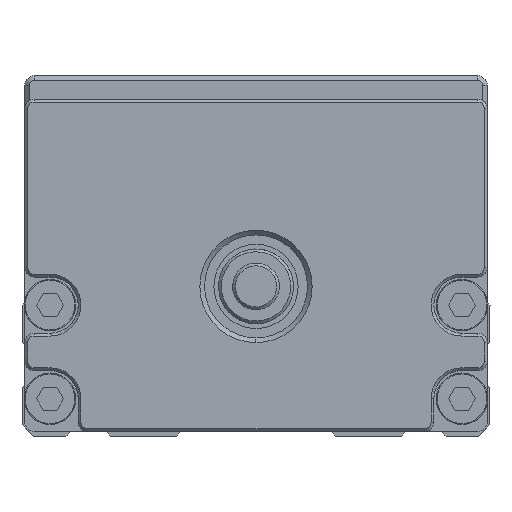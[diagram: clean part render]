
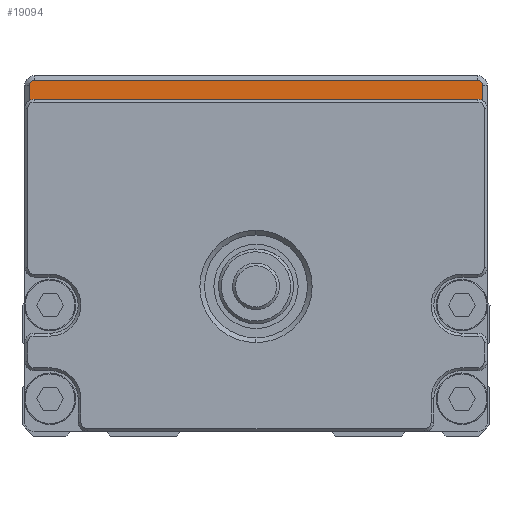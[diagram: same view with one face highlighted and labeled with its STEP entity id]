
A CAD part, front view. The second image highlights one B-rep face of the part: STEP entity #19094.
In plain terms, the highlighted planar face has unit normal (0, -1, 0) as drawn and (0, 1, 0) by its records, which use the part's own axes.
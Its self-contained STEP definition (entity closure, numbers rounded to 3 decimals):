
#594 = VERTEX_POINT ( 'NONE', #17052 ) ;
#1005 = LINE ( 'NONE', #26639, #14748 ) ;
#1908 = CARTESIAN_POINT ( 'NONE',  ( -23.7, -10., 35. ) ) ;
#2009 = DIRECTION ( 'NONE',  ( 0., 0., 1. ) ) ;
#2498 = CARTESIAN_POINT ( 'NONE',  ( 24.2, -10., 37.5 ) ) ;
#2763 = VERTEX_POINT ( 'NONE', #4109 ) ;
#3836 = DIRECTION ( 'NONE',  ( 0., 0., -1. ) ) ;
#4109 = CARTESIAN_POINT ( 'NONE',  ( -23.7, -10., 36. ) ) ;
#4286 = CARTESIAN_POINT ( 'NONE',  ( 24.2, -10., 35.866 ) ) ;
#4745 = ORIENTED_EDGE ( 'NONE', *, *, #23961, .T. ) ;
#5655 = CIRCLE ( 'NONE', #26826, 0.5 ) ;
#6099 = LINE ( 'NONE', #18883, #17196 ) ;
#6285 = DIRECTION ( 'NONE',  ( 0., 0., 1. ) ) ;
#7107 = AXIS2_PLACEMENT_3D ( 'NONE', #15727, #27358, #3836 ) ;
#8689 = CARTESIAN_POINT ( 'NONE',  ( -23.7, -10., 37.5 ) ) ;
#8968 = DIRECTION ( 'NONE',  ( 0., 1., 0. ) ) ;
#8973 = DIRECTION ( 'NONE',  ( 0., 0., -1. ) ) ;
#10488 = CARTESIAN_POINT ( 'NONE',  ( -24.2, -10., 37.5 ) ) ;
#10597 = CARTESIAN_POINT ( 'NONE',  ( -24.2, -10., 37.5 ) ) ;
#10643 = EDGE_LOOP ( 'NONE', ( #14918, #4745, #15473, #26843, #23305, #13218, #11487, #21662 ) ) ;
#10771 = EDGE_CURVE ( 'NONE', #2763, #17904, #1005, .T. ) ;
#11465 = CARTESIAN_POINT ( 'NONE',  ( 23.7, -10., 38. ) ) ;
#11487 = ORIENTED_EDGE ( 'NONE', *, *, #26337, .F. ) ;
#11670 = DIRECTION ( 'NONE',  ( 1., 0., 0. ) ) ;
#12100 = VERTEX_POINT ( 'NONE', #4286 ) ;
#13218 = ORIENTED_EDGE ( 'NONE', *, *, #23565, .T. ) ;
#14622 = DIRECTION ( 'NONE',  ( 1., 0., 0. ) ) ;
#14748 = VECTOR ( 'NONE', #14622, 1000. ) ;
#14918 = ORIENTED_EDGE ( 'NONE', *, *, #22722, .F. ) ;
#15104 = VERTEX_POINT ( 'NONE', #21060 ) ;
#15473 = ORIENTED_EDGE ( 'NONE', *, *, #25019, .T. ) ;
#15727 = CARTESIAN_POINT ( 'NONE',  ( -23.7, -10., 37.5 ) ) ;
#16616 = DIRECTION ( 'NONE',  ( 0., 0., -1. ) ) ;
#16814 = LINE ( 'NONE', #10597, #28693 ) ;
#16978 = CIRCLE ( 'NONE', #16997, 1. ) ;
#16997 = AXIS2_PLACEMENT_3D ( 'NONE', #25735, #18369, #28121 ) ;
#17052 = CARTESIAN_POINT ( 'NONE',  ( 23.7, -10., 38. ) ) ;
#17196 = VECTOR ( 'NONE', #16616, 1000. ) ;
#17498 = LINE ( 'NONE', #11465, #29354 ) ;
#17861 = DIRECTION ( 'NONE',  ( 0., 1., 0. ) ) ;
#17904 = VERTEX_POINT ( 'NONE', #22036 ) ;
#17910 = AXIS2_PLACEMENT_3D ( 'NONE', #1908, #30261, #8973 ) ;
#18208 = VERTEX_POINT ( 'NONE', #23386 ) ;
#18216 = PLANE ( 'NONE',  #7107 ) ;
#18369 = DIRECTION ( 'NONE',  ( 0., 1., 0. ) ) ;
#18883 = CARTESIAN_POINT ( 'NONE',  ( 24.2, -10., 35. ) ) ;
#19094 = ADVANCED_FACE ( 'NONE', ( #22937 ), #18216, .T. ) ;
#20232 = EDGE_CURVE ( 'NONE', #594, #30097, #5655, .T. ) ;
#20558 = CIRCLE ( 'NONE', #17910, 1. ) ;
#21026 = VERTEX_POINT ( 'NONE', #10488 ) ;
#21060 = CARTESIAN_POINT ( 'NONE',  ( -24.2, -10., 35.866 ) ) ;
#21662 = ORIENTED_EDGE ( 'NONE', *, *, #10771, .F. ) ;
#22036 = CARTESIAN_POINT ( 'NONE',  ( 23.7, -10., 36. ) ) ;
#22722 = EDGE_CURVE ( 'NONE', #15104, #2763, #20558, .T. ) ;
#22937 = FACE_OUTER_BOUND ( 'NONE', #10643, .T. ) ;
#23305 = ORIENTED_EDGE ( 'NONE', *, *, #20232, .T. ) ;
#23386 = CARTESIAN_POINT ( 'NONE',  ( -23.7, -10., 38. ) ) ;
#23565 = EDGE_CURVE ( 'NONE', #30097, #12100, #6099, .T. ) ;
#23744 = CIRCLE ( 'NONE', #28719, 0.5 ) ;
#23961 = EDGE_CURVE ( 'NONE', #15104, #21026, #16814, .T. ) ;
#25019 = EDGE_CURVE ( 'NONE', #21026, #18208, #23744, .T. ) ;
#25735 = CARTESIAN_POINT ( 'NONE',  ( 23.7, -10., 35. ) ) ;
#26337 = EDGE_CURVE ( 'NONE', #17904, #12100, #16978, .T. ) ;
#26639 = CARTESIAN_POINT ( 'NONE',  ( 23.7, -10., 36. ) ) ;
#26826 = AXIS2_PLACEMENT_3D ( 'NONE', #30368, #8968, #2009 ) ;
#26843 = ORIENTED_EDGE ( 'NONE', *, *, #30540, .T. ) ;
#27358 = DIRECTION ( 'NONE',  ( 0., 1., 0. ) ) ;
#28121 = DIRECTION ( 'NONE',  ( 0., 0., -1. ) ) ;
#28693 = VECTOR ( 'NONE', #29533, 1000. ) ;
#28719 = AXIS2_PLACEMENT_3D ( 'NONE', #8689, #17861, #6285 ) ;
#29354 = VECTOR ( 'NONE', #11670, 1000. ) ;
#29533 = DIRECTION ( 'NONE',  ( 0., 0., 1. ) ) ;
#30097 = VERTEX_POINT ( 'NONE', #2498 ) ;
#30261 = DIRECTION ( 'NONE',  ( 0., 1., 0. ) ) ;
#30368 = CARTESIAN_POINT ( 'NONE',  ( 23.7, -10., 37.5 ) ) ;
#30540 = EDGE_CURVE ( 'NONE', #18208, #594, #17498, .T. ) ;
